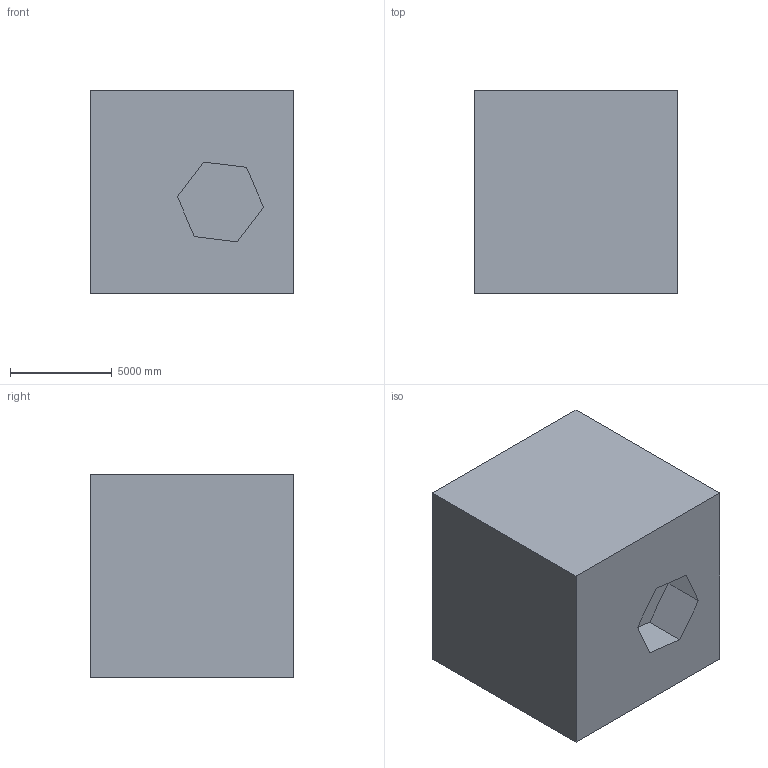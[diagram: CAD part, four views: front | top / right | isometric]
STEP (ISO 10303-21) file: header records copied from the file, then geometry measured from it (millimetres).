
FILE_DESCRIPTION (( 'STEP AP203' ), '1' );
FILE_NAME ('1197.STEP', '2022-08-18T13:08:35', ( 'user' ), ( '' ), 'SwSTEP 2.0', 'SolidWorks 2021', '' );
FILE_SCHEMA (( 'CONFIG_CONTROL_DESIGN' ));
Length unit declared in the file: centimetre
Products named in the file (1): 1197
Bounding box: 10000 x 10000 x 10000 mm (x, y, z)
Volume: 956261243625.4 mm3; surface area: 668251019.5 mm2
Topology: 1 solids, 1 shells, 17 faces, 39 edges, 26 vertices
Faces by surface type: plane 17
Entity records: 550 total; most frequent: CARTESIAN_POINT 83, ORIENTED_EDGE 78, DIRECTION 75, EDGE_CURVE 39, VECTOR 39, LINE 39, VERTEX_POINT 26, EDGE_LOOP 19
